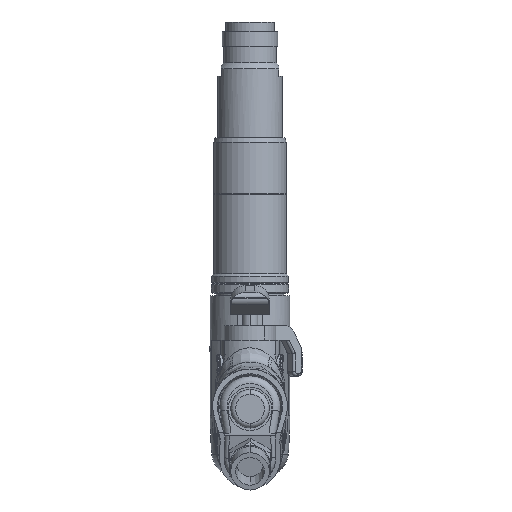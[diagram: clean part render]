
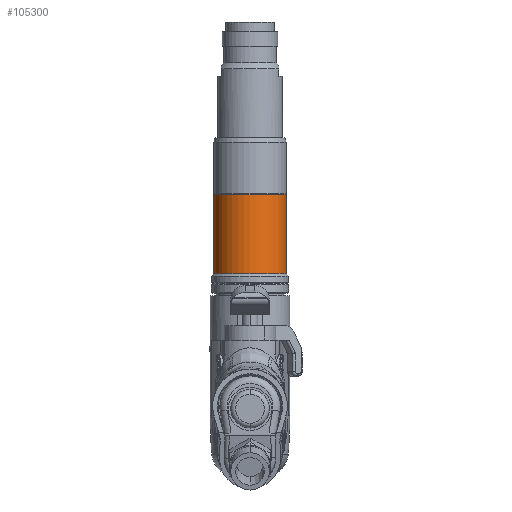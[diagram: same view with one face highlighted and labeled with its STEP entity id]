
A CAD part, front view. The second image highlights one B-rep face of the part: STEP entity #105300.
In plain terms, the highlighted cylindrical face has radius 15 mm (diameter 30 mm), a partial arc.
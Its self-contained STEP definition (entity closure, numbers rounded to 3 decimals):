
#35309 = CARTESIAN_POINT ( 'NONE',  ( -15., 0., -94.5 ) ) ;
#35310 = CARTESIAN_POINT ( 'NONE',  ( 15., 0., -94.5 ) ) ;
#35556 = CARTESIAN_POINT ( 'NONE',  ( -15., 0., -61.5 ) ) ;
#35557 = DIRECTION ( 'NONE',  ( 0., 0., 1. ) ) ;
#35558 = VECTOR ( 'NONE', #35557, 1000. ) ;
#35559 = CARTESIAN_POINT ( 'NONE',  ( -15., 0., 5.023 ) ) ;
#35567 = LINE ( 'NONE', #35559, #35558 ) ;
#35654 = DIRECTION ( 'NONE',  ( 0., 0., 1. ) ) ;
#35655 = VECTOR ( 'NONE', #35654, 1000. ) ;
#35658 = CARTESIAN_POINT ( 'NONE',  ( 15., 0., 5.023 ) ) ;
#35659 = LINE ( 'NONE', #35658, #35655 ) ;
#35664 = CARTESIAN_POINT ( 'NONE',  ( 15., 0., -61.5 ) ) ;
#35767 = CIRCLE ( 'NONE', #36585, 15. ) ;
#36550 = DIRECTION ( 'NONE',  ( 1., 0., 0. ) ) ;
#36552 = DIRECTION ( 'NONE',  ( 0., 0., 1. ) ) ;
#36554 = CARTESIAN_POINT ( 'NONE',  ( 0., 0., -94.5 ) ) ;
#36556 = AXIS2_PLACEMENT_3D ( 'NONE', #36554, #36552, #36550 ) ;
#36562 = DIRECTION ( 'NONE',  ( 1., 0., 0. ) ) ;
#36564 = DIRECTION ( 'NONE',  ( 0., 0., 1. ) ) ;
#36566 = AXIS2_PLACEMENT_3D ( 'NONE', #36575, #36564, #36562 ) ;
#36567 = CYLINDRICAL_SURFACE ( 'NONE', #36566, 15. ) ;
#36569 = CIRCLE ( 'NONE', #36556, 15. ) ;
#36575 = CARTESIAN_POINT ( 'NONE',  ( 0., 0., 5.023 ) ) ;
#36577 = FACE_OUTER_BOUND ( 'NONE', #105305, .T. ) ;
#36580 = DIRECTION ( 'NONE',  ( 1., 0., 0. ) ) ;
#36582 = DIRECTION ( 'NONE',  ( 0., 0., 1. ) ) ;
#36584 = CARTESIAN_POINT ( 'NONE',  ( 0., 0., -61.5 ) ) ;
#36585 = AXIS2_PLACEMENT_3D ( 'NONE', #36584, #36582, #36580 ) ;
#104447 = VERTEX_POINT ( 'NONE', #35310 ) ;
#104450 = VERTEX_POINT ( 'NONE', #35309 ) ;
#104736 = EDGE_CURVE ( 'NONE', #104450, #104738, #35567, .T. ) ;
#104738 = VERTEX_POINT ( 'NONE', #35556 ) ;
#104746 = VERTEX_POINT ( 'NONE', #35664 ) ;
#104751 = EDGE_CURVE ( 'NONE', #104447, #104746, #35659, .T. ) ;
#105226 = ORIENTED_EDGE ( 'NONE', *, *, #104751, .T. ) ;
#105229 = ORIENTED_EDGE ( 'NONE', *, *, #105284, .F. ) ;
#105284 = EDGE_CURVE ( 'NONE', #104738, #104746, #35767, .T. ) ;
#105300 = ADVANCED_FACE ( 'NONE', ( #36577 ), #36567, .T. ) ;
#105305 = EDGE_LOOP ( 'NONE', ( #105308, #105311, #105226, #105229 ) ) ;
#105308 = ORIENTED_EDGE ( 'NONE', *, *, #104736, .F. ) ;
#105311 = ORIENTED_EDGE ( 'NONE', *, *, #105314, .T. ) ;
#105314 = EDGE_CURVE ( 'NONE', #104450, #104447, #36569, .T. ) ;
